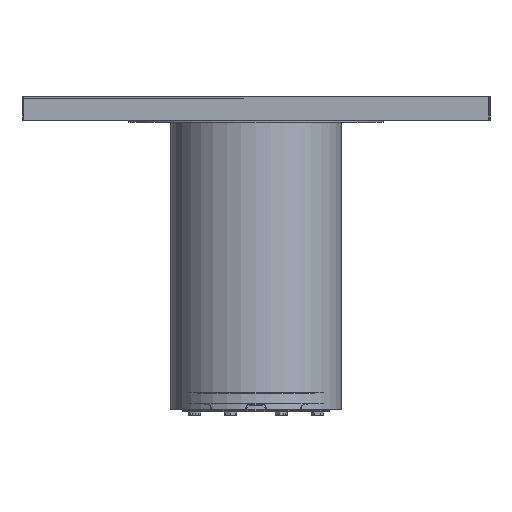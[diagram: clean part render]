
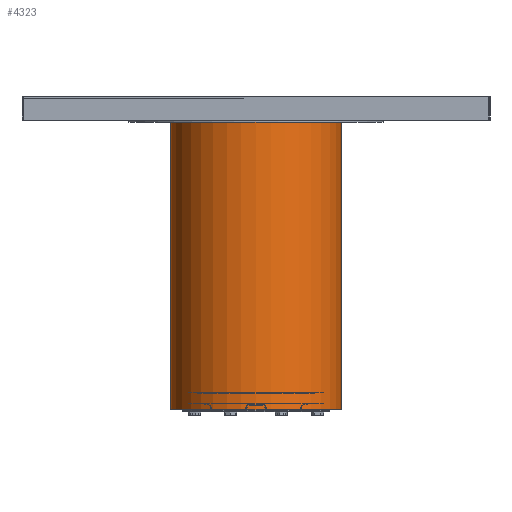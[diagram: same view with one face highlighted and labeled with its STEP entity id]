
A CAD part, left-side view. The second image highlights one B-rep face of the part: STEP entity #4323.
In plain terms, the highlighted cylindrical face has radius 200 mm (diameter 400 mm), a full revolution.
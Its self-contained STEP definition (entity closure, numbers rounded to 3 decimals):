
#409=CYLINDRICAL_SURFACE('',#34451,200.);
#1095=FACE_BOUND('',#9424,.T.);
#1096=FACE_BOUND('',#9425,.T.);
#1620=CIRCLE('',#34449,200.);
#1621=CIRCLE('',#34450,200.);
#4323=ADVANCED_FACE('',(#1095,#1096),#409,.T.);
#9424=EDGE_LOOP('',(#14061));
#9425=EDGE_LOOP('',(#14062));
#14061=ORIENTED_EDGE('',*,*,#24329,.F.);
#14062=ORIENTED_EDGE('',*,*,#24330,.T.);
#20873=VERTEX_POINT('',#49579);
#20874=VERTEX_POINT('',#49581);
#24329=EDGE_CURVE('',#20873,#20873,#1620,.T.);
#24330=EDGE_CURVE('',#20874,#20874,#1621,.T.);
#34449=AXIS2_PLACEMENT_3D('',#49578,#39340,#39341);
#34450=AXIS2_PLACEMENT_3D('',#49580,#39342,#39343);
#34451=AXIS2_PLACEMENT_3D('',#49582,#39344,#39345);
#39340=DIRECTION('',(0.,0.,-1.));
#39341=DIRECTION('',(1.,0.,0.));
#39342=DIRECTION('',(0.,0.,-1.));
#39343=DIRECTION('',(-1.,0.,0.));
#39344=DIRECTION('',(0.,0.,1.));
#39345=DIRECTION('',(1.,0.,0.));
#49578=CARTESIAN_POINT('',(-5767.877,-1862.351,2.5));
#49579=CARTESIAN_POINT('',(-5567.877,-1862.351,2.5));
#49580=CARTESIAN_POINT('',(-5767.877,-1862.351,677.5));
#49581=CARTESIAN_POINT('',(-5967.877,-1862.351,677.5));
#49582=CARTESIAN_POINT('',(-5767.877,-1862.351,2.5));
